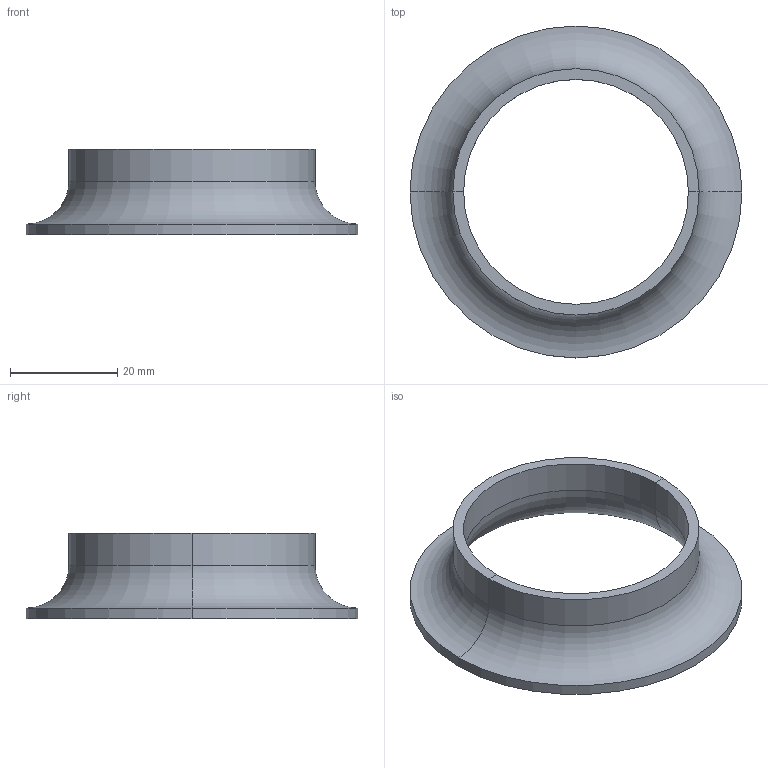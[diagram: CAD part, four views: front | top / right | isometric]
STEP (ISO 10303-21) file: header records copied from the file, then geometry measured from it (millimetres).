
FILE_DESCRIPTION(('BendCAD AP242 PMI export'),'2;1');
FILE_NAME('bendcad.step','',('BendCAD'),('BendCAD'),'BendCAD','BendCAD','');
FILE_SCHEMA(('AP242_MANAGED_MODEL_BASED_3D_ENGINEERING_MIM_LF'));
Length unit declared in the file: millimetre
Products named in the file (1): BENDCAD
Bounding box: 62 x 62 x 16 mm (x, y, z)
Volume: 6143.9 mm3; surface area: 6801.6 mm2
Topology: 1 solids, 1 shells, 12 faces, 24 edges, 12 vertices
Faces by surface type: cylinder 6, torus 4, plane 2
Entity records: 324 total; most frequent: DIRECTION 58, CARTESIAN_POINT 49, ORIENTED_EDGE 48, AXIS2_PLACEMENT_3D 25, EDGE_CURVE 24, CIRCLE 12, TRIMMED_CURVE 12, VERTEX_POINT 12
